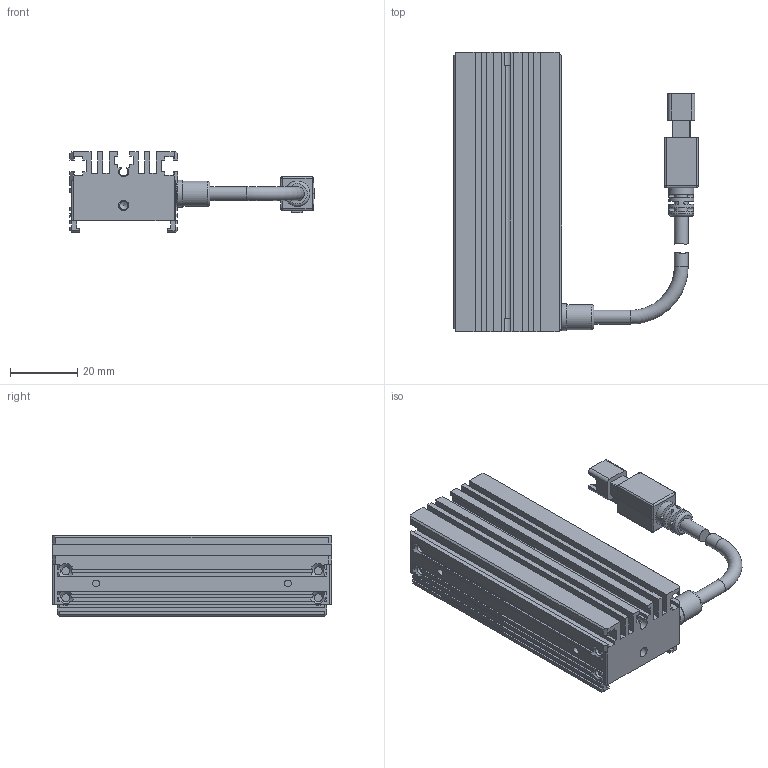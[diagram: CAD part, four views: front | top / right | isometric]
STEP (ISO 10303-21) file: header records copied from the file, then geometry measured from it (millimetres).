
FILE_DESCRIPTION (( 'STEP AP203' ), '1' );
FILE_NAME ('OPT-ILI8332-IR-V1.0尨砩芞.STEP', '2025-01-18T07:38:12', ( '' ), ( '' ), 'SwSTEP 2.0', 'SolidWorks 2016', '' );
FILE_SCHEMA (( 'CONFIG_CONTROL_DESIGN' ));
Length unit declared in the file: millimetre
Products named in the file (1): OPT-ILI8332-IR-V1.0尨砩芞
Bounding box: 72.6 x 83 x 24 mm (x, y, z)
Volume: 47665.8 mm3; surface area: 24628.7 mm2
Topology: 5 solids, 13 shells, 584 faces, 1529 edges, 979 vertices
Faces by surface type: plane 396, cylinder 130, cone 28, bspline 20, torus 10
Full cylindrical faces by diameter (mm): 1.1 x2, 1.4 x2, 1.6 x7, 2 x11, 2.4 x7, 2.5 x2, 3 x2, 3.5 x1, 4.1 x3, 7.5 x2, 8 x1
Entity records: 18013 total; most frequent: CARTESIAN_POINT 4157, ORIENTED_EDGE 2862, DIRECTION 2738, EDGE_CURVE 1431, LINE 986, VECTOR 986, VERTEX_POINT 951, AXIS2_PLACEMENT_3D 876
